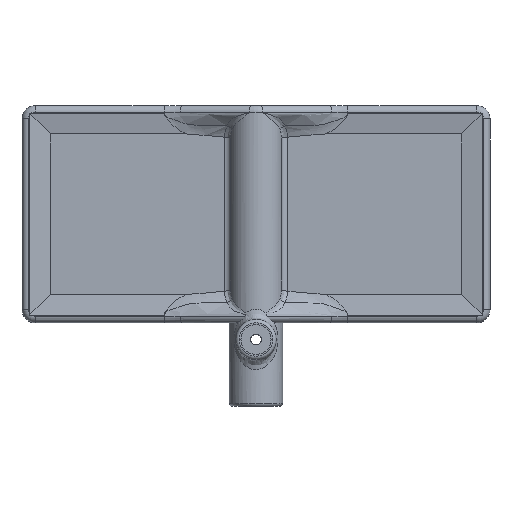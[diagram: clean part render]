
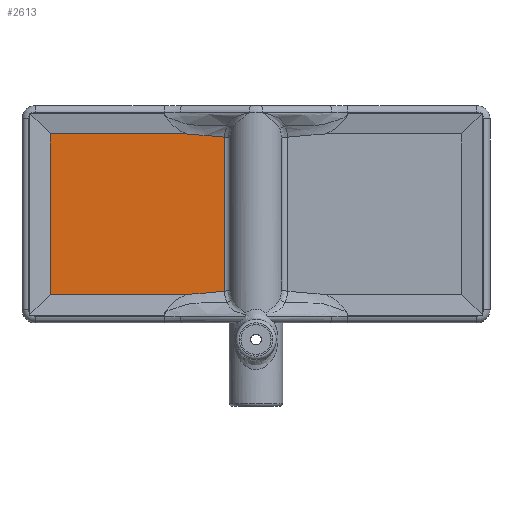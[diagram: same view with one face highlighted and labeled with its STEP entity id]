
A CAD part, top view. The second image highlights one B-rep face of the part: STEP entity #2613.
In plain terms, the highlighted planar face has unit normal (0, 0, 1).
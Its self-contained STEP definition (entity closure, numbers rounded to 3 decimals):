
#159=LINE('',#6174,#300);
#160=LINE('',#6491,#301);
#161=LINE('',#6493,#302);
#162=LINE('',#6494,#303);
#300=VECTOR('',#3476,10.);
#301=VECTOR('',#3481,10.);
#302=VECTOR('',#3482,10.);
#303=VECTOR('',#3483,10.);
#370=PLANE('',#2893);
#495=B_SPLINE_CURVE_WITH_KNOTS('',3,(#6438,#6439,#6440,#6441,#6442,#6443,
#6444,#6445,#6446,#6447),.UNSPECIFIED.,.F.,.F.,(4,2,2,2,4),(0.,0.216,
0.359,0.546,0.643),.UNSPECIFIED.);
#498=B_SPLINE_CURVE_WITH_KNOTS('',3,(#6480,#6481,#6482,#6483,#6484,#6485,
#6486,#6487,#6488,#6489),.UNSPECIFIED.,.F.,.F.,(4,2,2,2,4),(0.212,
0.632,0.941,1.129,1.268),
 .UNSPECIFIED.);
#693=FACE_OUTER_BOUND('',#859,.T.);
#859=EDGE_LOOP('',(#2292,#2293,#2294,#2295,#2296,#2297));
#1245=VERTEX_POINT('',#6168);
#1246=VERTEX_POINT('',#6173);
#1248=VERTEX_POINT('',#6437);
#1250=VERTEX_POINT('',#6479);
#1251=VERTEX_POINT('',#6490);
#1252=VERTEX_POINT('',#6492);
#1609=EDGE_CURVE('',#1245,#1246,#159,.T.);
#1615=EDGE_CURVE('',#1248,#1246,#495,.T.);
#1618=EDGE_CURVE('',#1245,#1250,#498,.T.);
#1619=EDGE_CURVE('',#1250,#1251,#160,.T.);
#1620=EDGE_CURVE('',#1251,#1252,#161,.T.);
#1621=EDGE_CURVE('',#1252,#1248,#162,.T.);
#2292=ORIENTED_EDGE('',*,*,#1609,.F.);
#2293=ORIENTED_EDGE('',*,*,#1618,.T.);
#2294=ORIENTED_EDGE('',*,*,#1619,.T.);
#2295=ORIENTED_EDGE('',*,*,#1620,.T.);
#2296=ORIENTED_EDGE('',*,*,#1621,.T.);
#2297=ORIENTED_EDGE('',*,*,#1615,.T.);
#2613=ADVANCED_FACE('',(#693),#370,.T.);
#2893=AXIS2_PLACEMENT_3D('',#6478,#3479,#3480);
#3476=DIRECTION('',(0.,-1.,0.));
#3479=DIRECTION('center_axis',(0.,0.,1.));
#3480=DIRECTION('ref_axis',(1.,0.,0.));
#3481=DIRECTION('',(-1.,0.,0.));
#3482=DIRECTION('',(0.,-1.,0.));
#3483=DIRECTION('',(1.,0.,0.));
#6168=CARTESIAN_POINT('',(-9.539,55.541,1.));
#6173=CARTESIAN_POINT('',(-9.539,9.459,1.));
#6174=CARTESIAN_POINT('',(-9.539,20.,1.));
#6437=CARTESIAN_POINT('',(-20.732,8.5,1.));
#6438=CARTESIAN_POINT('Ctrl Pts',(-20.732,8.5,1.));
#6439=CARTESIAN_POINT('Ctrl Pts',(-20.011,8.5,1.));
#6440=CARTESIAN_POINT('Ctrl Pts',(-19.063,8.571,1.));
#6441=CARTESIAN_POINT('Ctrl Pts',(-17.143,8.744,1.));
#6442=CARTESIAN_POINT('Ctrl Pts',(-17.044,8.755,1.));
#6443=CARTESIAN_POINT('Ctrl Pts',(-13.37,9.108,1.));
#6444=CARTESIAN_POINT('Ctrl Pts',(-12.954,9.147,1.));
#6445=CARTESIAN_POINT('Ctrl Pts',(-10.911,9.335,1.));
#6446=CARTESIAN_POINT('Ctrl Pts',(-10.224,9.397,1.));
#6447=CARTESIAN_POINT('Ctrl Pts',(-9.539,9.459,1.));
#6478=CARTESIAN_POINT('Origin',(0.,56.5,1.));
#6479=CARTESIAN_POINT('',(-20.732,56.5,1.));
#6480=CARTESIAN_POINT('Ctrl Pts',(-9.539,55.541,1.));
#6481=CARTESIAN_POINT('Ctrl Pts',(-10.927,55.666,1.));
#6482=CARTESIAN_POINT('Ctrl Pts',(-12.33,55.795,1.));
#6483=CARTESIAN_POINT('Ctrl Pts',(-14.954,56.044,1.));
#6484=CARTESIAN_POINT('Ctrl Pts',(-15.885,56.134,1.));
#6485=CARTESIAN_POINT('Ctrl Pts',(-17.104,56.251,1.));
#6486=CARTESIAN_POINT('Ctrl Pts',(-18.353,56.369,1.));
#6487=CARTESIAN_POINT('Ctrl Pts',(-19.716,56.47,1.));
#6488=CARTESIAN_POINT('Ctrl Pts',(-20.261,56.5,1.));
#6489=CARTESIAN_POINT('Ctrl Pts',(-20.732,56.5,1.));
#6490=CARTESIAN_POINT('',(-61.5,56.5,1.));
#6491=CARTESIAN_POINT('',(0.,56.5,1.));
#6492=CARTESIAN_POINT('',(-61.5,8.5,1.));
#6493=CARTESIAN_POINT('',(-61.5,28.25,1.));
#6494=CARTESIAN_POINT('',(0.,8.5,1.));
